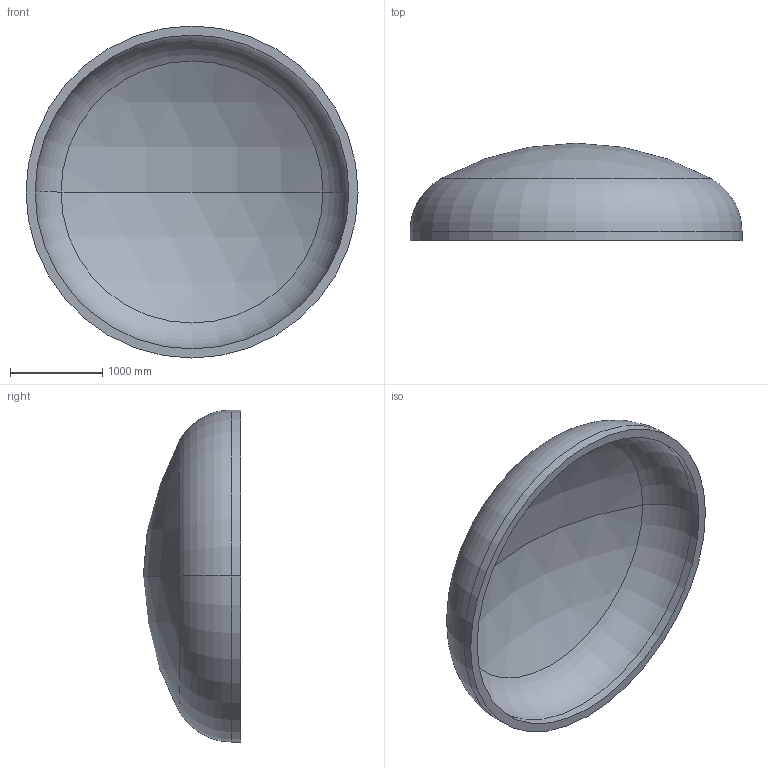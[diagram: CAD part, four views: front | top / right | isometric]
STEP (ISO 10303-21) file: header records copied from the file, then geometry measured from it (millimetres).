
FILE_DESCRIPTION (( 'STEP AP203' ), '1' );
FILE_NAME ('DIN 28013 Korbbogenform_-_Boden DIN 28013 - 3600 x 100 - I - s=98.step', '2016-07-01T20:48:20', ( '' ), ( '' ), 'SwSTEP 2.0', 'SolidWorks 2013', '' );
FILE_SCHEMA (( 'CONFIG_CONTROL_DESIGN' ));
Length unit declared in the file: millimetre
Products named in the file (1): DIN 28013 Korbbogenform_-_Boden DIN 28013 - 3600 x 100 - I - s=98
Bounding box: 3600 x 1055.62 x 3600 mm (x, y, z)
Volume: 1441280798.6 mm3; surface area: 30512180.5 mm2
Topology: 1 solids, 1 shells, 13 faces, 24 edges, 14 vertices
Faces by surface type: torus 4, cylinder 4, sphere 4, plane 1
Entity records: 407 total; most frequent: DIRECTION 72, CARTESIAN_POINT 52, ORIENTED_EDGE 48, AXIS2_PLACEMENT_3D 34, EDGE_CURVE 24, CIRCLE 20, VERTEX_POINT 14, EDGE_LOOP 14
